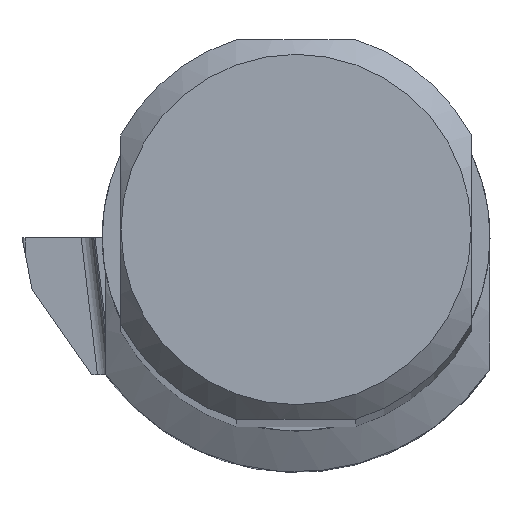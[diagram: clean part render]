
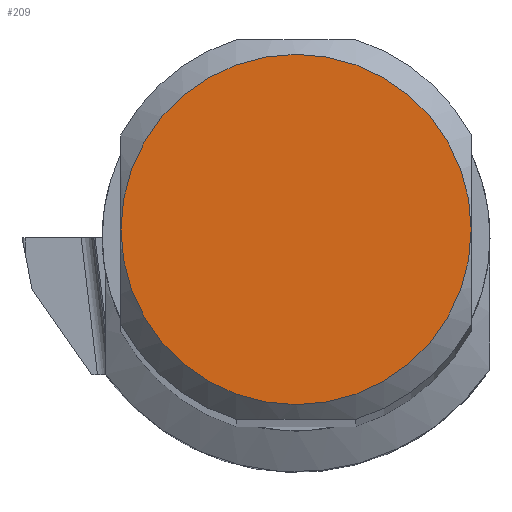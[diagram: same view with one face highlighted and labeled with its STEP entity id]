
A CAD part, top view. The second image highlights one B-rep face of the part: STEP entity #209.
In plain terms, the highlighted planar face has unit normal (0, 0, 1).
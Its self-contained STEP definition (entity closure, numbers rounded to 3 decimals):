
#101=PLANE('',#2903);
#209=ADVANCED_FACE('',(#419),#101,.T.);
#419=FACE_OUTER_BOUND('',#558,.T.);
#558=EDGE_LOOP('',(#785,#786));
#785=ORIENTED_EDGE('',*,*,#1838,.T.);
#786=ORIENTED_EDGE('',*,*,#1821,.T.);
#1542=VERTEX_POINT('',#4125);
#1546=VERTEX_POINT('',#4141);
#1821=EDGE_CURVE('',#1542,#1546,#2228,.T.);
#1838=EDGE_CURVE('',#1546,#1542,#2233,.T.);
#2228=CIRCLE('',#2890,11.167);
#2233=CIRCLE('',#2902,11.167);
#2890=AXIS2_PLACEMENT_3D('',#4142,#3242,#3243);
#2902=AXIS2_PLACEMENT_3D('',#4174,#3278,#3279);
#2903=AXIS2_PLACEMENT_3D('',#4175,#3280,#3281);
#3242=DIRECTION('',(0.,0.,1.));
#3243=DIRECTION('',(0.,-1.,0.));
#3278=DIRECTION('',(0.,0.,1.));
#3279=DIRECTION('',(0.,-1.,0.));
#3280=DIRECTION('',(0.,0.,1.));
#3281=DIRECTION('',(0.,-1.,0.));
#4125=CARTESIAN_POINT('',(11.167,0.,0.));
#4141=CARTESIAN_POINT('',(-11.167,0.,0.));
#4142=CARTESIAN_POINT('',(0.,0.,0.));
#4174=CARTESIAN_POINT('',(0.,0.,0.));
#4175=CARTESIAN_POINT('',(0.,0.,0.));
